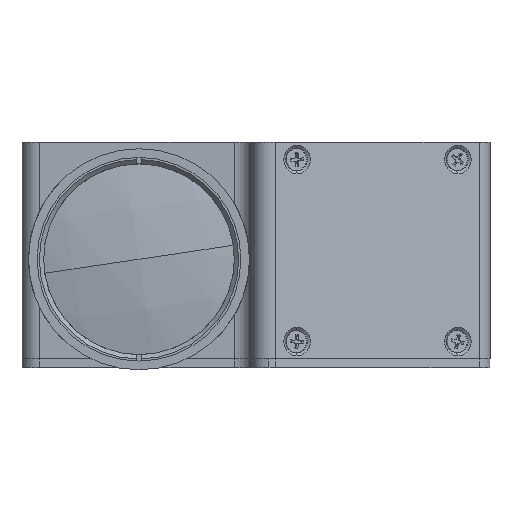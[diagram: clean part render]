
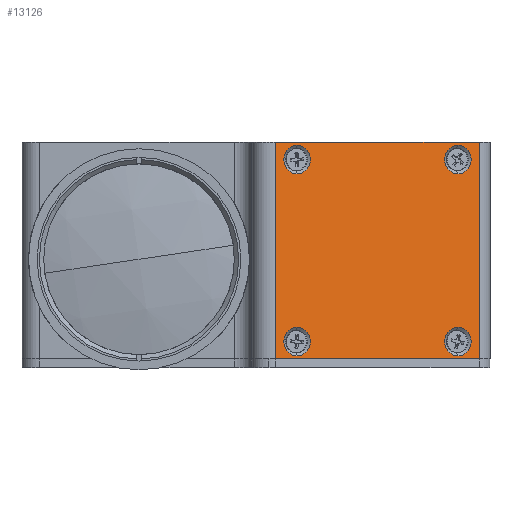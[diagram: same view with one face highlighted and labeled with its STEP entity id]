
A CAD part, left-side view. The second image highlights one B-rep face of the part: STEP entity #13126.
In plain terms, the highlighted planar face has unit normal (-0.927, -0.375, 0).
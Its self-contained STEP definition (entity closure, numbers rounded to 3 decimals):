
#272 = ORIENTED_EDGE ( 'NONE', *, *, #10998, .F. ) ;
#577 = AXIS2_PLACEMENT_3D ( 'NONE', #15337, #3183, #17395 ) ;
#600 = CARTESIAN_POINT ( 'NONE',  ( 52.046, -36.495, 19.7 ) ) ;
#818 = DIRECTION ( 'NONE',  ( -0.927, -0.375, 0. ) ) ;
#1242 = DIRECTION ( 'NONE',  ( 0., 0., 1. ) ) ;
#1307 = FACE_BOUND ( 'NONE', #6041, .T. ) ;
#1652 = VECTOR ( 'NONE', #17044, 1000. ) ;
#1705 = CIRCLE ( 'NONE', #577, 3.3 ) ;
#1727 = CARTESIAN_POINT ( 'NONE',  ( 52.046, -36.495, 26.3 ) ) ;
#1836 = EDGE_LOOP ( 'NONE', ( #272, #16213 ) ) ;
#2026 = ORIENTED_EDGE ( 'NONE', *, *, #7286, .F. ) ;
#2180 = AXIS2_PLACEMENT_3D ( 'NONE', #2204, #16398, #4241 ) ;
#2204 = CARTESIAN_POINT ( 'NONE',  ( 52.046, -36.495, 23. ) ) ;
#2560 = CARTESIAN_POINT ( 'NONE',  ( 52.046, -36.495, -22.3 ) ) ;
#2646 = ORIENTED_EDGE ( 'NONE', *, *, #3704, .F. ) ;
#3004 = PLANE ( 'NONE',  #11382 ) ;
#3173 = CARTESIAN_POINT ( 'NONE',  ( 67.03, -73.583, 26.3 ) ) ;
#3183 = DIRECTION ( 'NONE',  ( -0.927, -0.375, 0. ) ) ;
#3248 = VERTEX_POINT ( 'NONE', #3173 ) ;
#3436 = ORIENTED_EDGE ( 'NONE', *, *, #7403, .F. ) ;
#3704 = EDGE_CURVE ( 'NONE', #16602, #22975, #14274, .T. ) ;
#3972 = CARTESIAN_POINT ( 'NONE',  ( 67.03, -73.583, 19.7 ) ) ;
#4241 = DIRECTION ( 'NONE',  ( 0., 0., 1. ) ) ;
#4262 = ORIENTED_EDGE ( 'NONE', *, *, #11944, .F. ) ;
#4354 = VECTOR ( 'NONE', #22591, 1000. ) ;
#5425 = EDGE_LOOP ( 'NONE', ( #25445, #19148, #2026, #26093 ) ) ;
#5657 = AXIS2_PLACEMENT_3D ( 'NONE', #11279, #25422, #13312 ) ;
#5705 = EDGE_CURVE ( 'NONE', #6057, #18455, #19880, .T. ) ;
#6040 = EDGE_CURVE ( 'NONE', #6605, #3248, #13524, .T. ) ;
#6041 = EDGE_LOOP ( 'NONE', ( #11225, #4262 ) ) ;
#6057 = VERTEX_POINT ( 'NONE', #17599 ) ;
#6487 = AXIS2_PLACEMENT_3D ( 'NONE', #12955, #818, #15014 ) ;
#6605 = VERTEX_POINT ( 'NONE', #3972 ) ;
#6703 = FACE_BOUND ( 'NONE', #22045, .T. ) ;
#7068 = VERTEX_POINT ( 'NONE', #1727 ) ;
#7286 = EDGE_CURVE ( 'NONE', #11017, #24723, #25232, .T. ) ;
#7403 = EDGE_CURVE ( 'NONE', #22975, #16602, #23332, .T. ) ;
#7480 = DIRECTION ( 'NONE',  ( -0.927, -0.375, 0. ) ) ;
#7748 = EDGE_CURVE ( 'NONE', #7068, #16351, #12235, .T. ) ;
#8241 = VECTOR ( 'NONE', #24606, 1000. ) ;
#8308 = LINE ( 'NONE', #10817, #1652 ) ;
#8691 = DIRECTION ( 'NONE',  ( 0.375, -0.927, 0. ) ) ;
#9653 = AXIS2_PLACEMENT_3D ( 'NONE', #25476, #13361, #1242 ) ;
#10037 = CARTESIAN_POINT ( 'NONE',  ( 67.03, -73.583, -22.3 ) ) ;
#10817 = CARTESIAN_POINT ( 'NONE',  ( 69.017, -78.498, 2. ) ) ;
#10998 = EDGE_CURVE ( 'NONE', #3248, #6605, #1705, .T. ) ;
#11017 = VERTEX_POINT ( 'NONE', #11068 ) ;
#11068 = CARTESIAN_POINT ( 'NONE',  ( 50.035, -31.516, 27. ) ) ;
#11225 = ORIENTED_EDGE ( 'NONE', *, *, #12337, .F. ) ;
#11279 = CARTESIAN_POINT ( 'NONE',  ( 67.03, -73.583, -19. ) ) ;
#11337 = DIRECTION ( 'NONE',  ( -0.927, -0.375, 0. ) ) ;
#11382 = AXIS2_PLACEMENT_3D ( 'NONE', #21244, #11337, #25475 ) ;
#11532 = AXIS2_PLACEMENT_3D ( 'NONE', #11712, #25861, #13749 ) ;
#11712 = CARTESIAN_POINT ( 'NONE',  ( 52.046, -36.495, -19. ) ) ;
#11944 = EDGE_CURVE ( 'NONE', #14158, #20355, #21628, .T. ) ;
#12217 = EDGE_CURVE ( 'NONE', #6057, #24723, #8308, .T. ) ;
#12235 = CIRCLE ( 'NONE', #6487, 3.3 ) ;
#12337 = EDGE_CURVE ( 'NONE', #20355, #14158, #15305, .T. ) ;
#12955 = CARTESIAN_POINT ( 'NONE',  ( 52.046, -36.495, 23. ) ) ;
#12998 = EDGE_LOOP ( 'NONE', ( #3436, #2646 ) ) ;
#13067 = AXIS2_PLACEMENT_3D ( 'NONE', #19607, #7480, #21632 ) ;
#13126 = ADVANCED_FACE ( 'NONE', ( #22827, #22207, #1307, #6703, #16860 ), #3004, .T. ) ;
#13312 = DIRECTION ( 'NONE',  ( 0., 0., 1. ) ) ;
#13361 = DIRECTION ( 'NONE',  ( -0.927, -0.375, 0. ) ) ;
#13524 = CIRCLE ( 'NONE', #13067, 3.3 ) ;
#13749 = DIRECTION ( 'NONE',  ( 0., 0., 1. ) ) ;
#13961 = EDGE_CURVE ( 'NONE', #11017, #18455, #25013, .T. ) ;
#14158 = VERTEX_POINT ( 'NONE', #2560 ) ;
#14257 = AXIS2_PLACEMENT_3D ( 'NONE', #18735, #17885, #17729 ) ;
#14274 = CIRCLE ( 'NONE', #14257, 3.3 ) ;
#14446 = CARTESIAN_POINT ( 'NONE',  ( 52.046, -36.495, -15.7 ) ) ;
#15014 = DIRECTION ( 'NONE',  ( 0., 0., 1. ) ) ;
#15305 = CIRCLE ( 'NONE', #9653, 3.3 ) ;
#15337 = CARTESIAN_POINT ( 'NONE',  ( 67.03, -73.583, 23. ) ) ;
#16213 = ORIENTED_EDGE ( 'NONE', *, *, #6040, .F. ) ;
#16351 = VERTEX_POINT ( 'NONE', #600 ) ;
#16398 = DIRECTION ( 'NONE',  ( -0.927, -0.375, 0. ) ) ;
#16526 = CARTESIAN_POINT ( 'NONE',  ( 50.035, -31.516, 2. ) ) ;
#16602 = VERTEX_POINT ( 'NONE', #10037 ) ;
#16860 = FACE_OUTER_BOUND ( 'NONE', #5425, .T. ) ;
#17044 = DIRECTION ( 'NONE',  ( 0., 0., 1. ) ) ;
#17395 = DIRECTION ( 'NONE',  ( 0., 0., 1. ) ) ;
#17599 = CARTESIAN_POINT ( 'NONE',  ( 69.017, -78.498, -23. ) ) ;
#17729 = DIRECTION ( 'NONE',  ( 0., 0., 1. ) ) ;
#17885 = DIRECTION ( 'NONE',  ( -0.927, -0.375, 0. ) ) ;
#18234 = ORIENTED_EDGE ( 'NONE', *, *, #7748, .F. ) ;
#18455 = VERTEX_POINT ( 'NONE', #19091 ) ;
#18735 = CARTESIAN_POINT ( 'NONE',  ( 67.03, -73.583, -19. ) ) ;
#19091 = CARTESIAN_POINT ( 'NONE',  ( 50.035, -31.516, -23. ) ) ;
#19148 = ORIENTED_EDGE ( 'NONE', *, *, #12217, .T. ) ;
#19607 = CARTESIAN_POINT ( 'NONE',  ( 67.03, -73.583, 23. ) ) ;
#19878 = VECTOR ( 'NONE', #8691, 1000. ) ;
#19880 = LINE ( 'NONE', #20583, #4354 ) ;
#20312 = CARTESIAN_POINT ( 'NONE',  ( 67.03, -73.583, -15.7 ) ) ;
#20355 = VERTEX_POINT ( 'NONE', #14446 ) ;
#20583 = CARTESIAN_POINT ( 'NONE',  ( 71.526, -84.709, -23. ) ) ;
#20754 = CARTESIAN_POINT ( 'NONE',  ( 69.017, -78.498, 27. ) ) ;
#21244 = CARTESIAN_POINT ( 'NONE',  ( 59.669, -55.363, 2. ) ) ;
#21628 = CIRCLE ( 'NONE', #11532, 3.3 ) ;
#21632 = DIRECTION ( 'NONE',  ( 0., 0., 1. ) ) ;
#22045 = EDGE_LOOP ( 'NONE', ( #18234, #26109 ) ) ;
#22207 = FACE_BOUND ( 'NONE', #12998, .T. ) ;
#22591 = DIRECTION ( 'NONE',  ( -0.375, 0.927, 0. ) ) ;
#22827 = FACE_BOUND ( 'NONE', #1836, .T. ) ;
#22975 = VERTEX_POINT ( 'NONE', #20312 ) ;
#23194 = CIRCLE ( 'NONE', #2180, 3.3 ) ;
#23332 = CIRCLE ( 'NONE', #5657, 3.3 ) ;
#24606 = DIRECTION ( 'NONE',  ( 0., 0., -1. ) ) ;
#24723 = VERTEX_POINT ( 'NONE', #20754 ) ;
#24878 = CARTESIAN_POINT ( 'NONE',  ( 71.526, -84.709, 27. ) ) ;
#25013 = LINE ( 'NONE', #16526, #8241 ) ;
#25232 = LINE ( 'NONE', #24878, #19878 ) ;
#25422 = DIRECTION ( 'NONE',  ( -0.927, -0.375, 0. ) ) ;
#25445 = ORIENTED_EDGE ( 'NONE', *, *, #5705, .F. ) ;
#25475 = DIRECTION ( 'NONE',  ( 0., 0., 1. ) ) ;
#25476 = CARTESIAN_POINT ( 'NONE',  ( 52.046, -36.495, -19. ) ) ;
#25581 = EDGE_CURVE ( 'NONE', #16351, #7068, #23194, .T. ) ;
#25861 = DIRECTION ( 'NONE',  ( -0.927, -0.375, 0. ) ) ;
#26093 = ORIENTED_EDGE ( 'NONE', *, *, #13961, .T. ) ;
#26109 = ORIENTED_EDGE ( 'NONE', *, *, #25581, .F. ) ;
